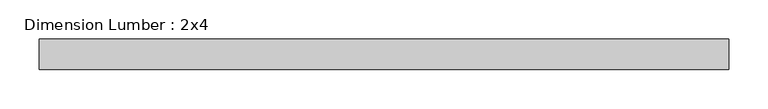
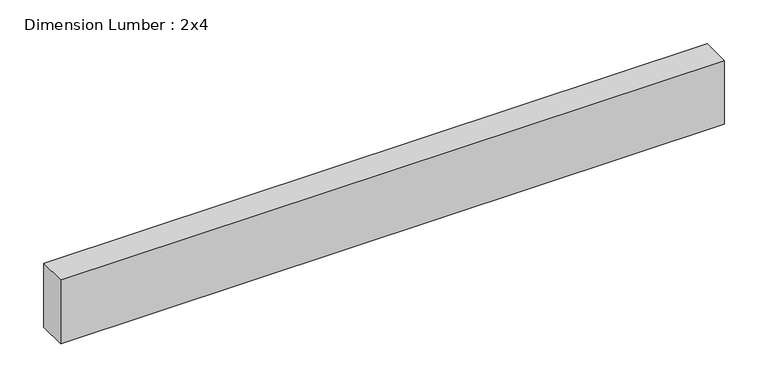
"""IFC4 building model written with IfcOpenShell, lengths in millimetres: beam geometry, Dimension Lumber : 2x4."""

from ifc_helpers import new_model, si_unit, frame, origin, place, context, project, spatial, polyline, outline, extrude, source, transform, mapped, element, save


def dimension_lumber_2x4_e0de5245(model_context):
    return source(origin(), model_context, "Body", "SweptSolid", [
        extrude(outline(polyline([(436.3023716, 19.05), (436.3023716, -19.05), (-436.3023716, -19.05), (-436.3023716, 19.05), (436.3023716, 19.05)])), frame((0.0, 0.0, -44.45), z_axis=(0.0, 0.0, 1.0), x_axis=(1.0, 0.0, 0.0)), (0.0, 0.0, 1.0), 88.9),
    ])


if __name__ == "__main__":
    model = new_model("IFC4")
    model_context = context("Model", 3, world=origin())
    ifc_project = project(units=[si_unit("LENGTHUNIT", "METRE", prefix="MILLI")], contexts=[model_context])
    site = spatial("IfcSite", under=ifc_project)
    building = spatial("IfcBuilding", under=site)
    placement = place(None, origin())
    dimension_lumber_2x4_shape = dimension_lumber_2x4_e0de5245(model_context)
    element("IfcBeam", 1, ObjectType="Dimension Lumber : 2x4", at=placement, inside=building, context=model_context, shape_type="MappedRepresentation", body=[
        mapped(dimension_lumber_2x4_shape, transform((0.0, 0.0, 0.0), x_axis=(1.0, 0.0, 0.0), y_axis=(0.0, 1.0, 0.0), z_axis=(0.0, 0.0, 1.0))),
    ])
    save(model, "model.ifc")
